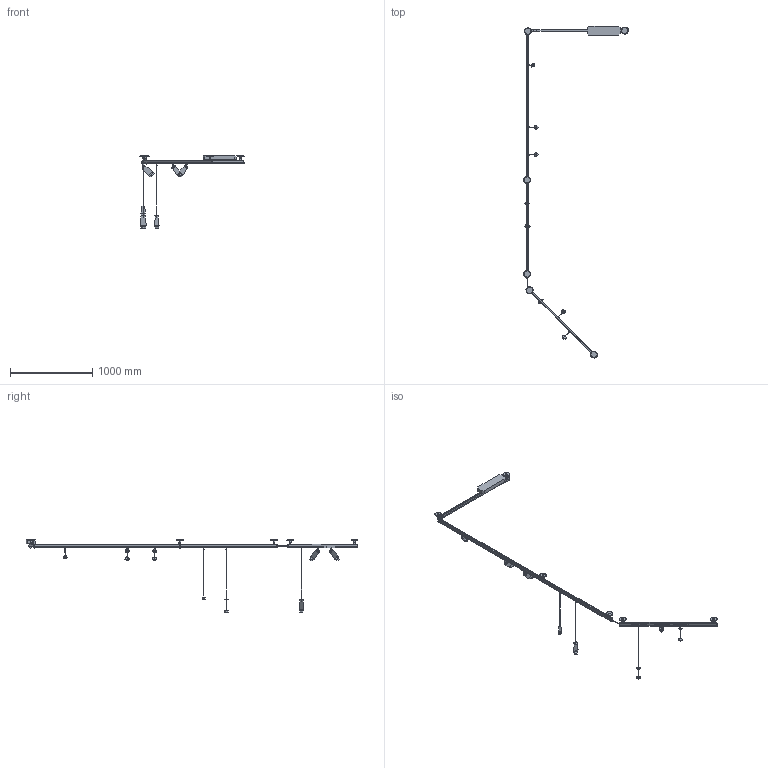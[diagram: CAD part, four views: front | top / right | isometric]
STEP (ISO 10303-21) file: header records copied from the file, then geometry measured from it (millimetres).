
FILE_DESCRIPTION(/* description */ (''),/* implementation_level */ '2;1');
FILE_NAME(/* name */ 'Gople System Ceiling Configuration Example',/* time_stamp */ '2023-03-13T11:28:15+01:00',/* author */ (''),/* organization */ (''),/* preprocessor_version */ 'ST-DEVELOPER v16.5',/* originating_system */ 'Rhino 7.27',/* authorisation */ '');
FILE_SCHEMA (('AUTOMOTIVE_DESIGN'));
Products named in the file (1): Document
Bounding box: 1275.08 x 4044.46 x 885.06 mm (x, y, z)
Volume: 14825963.8 mm3; surface area: 1936200.3 mm2
Topology: 54 solids, 134 shells, 2158 faces, 5430 edges, 3584 vertices
Faces by surface type: bspline 992, plane 713, cylinder 453
Entity records: 138235 total; most frequent: CARTESIAN_POINT 95831, ORIENTED_EDGE 10476, EDGE_CURVE 5402, VERTEX_POINT 3527, B_SPLINE_CURVE_WITH_KNOTS 3009, EDGE_LOOP 2310, ADVANCED_FACE 2147, FACE_OUTER_BOUND 2147
